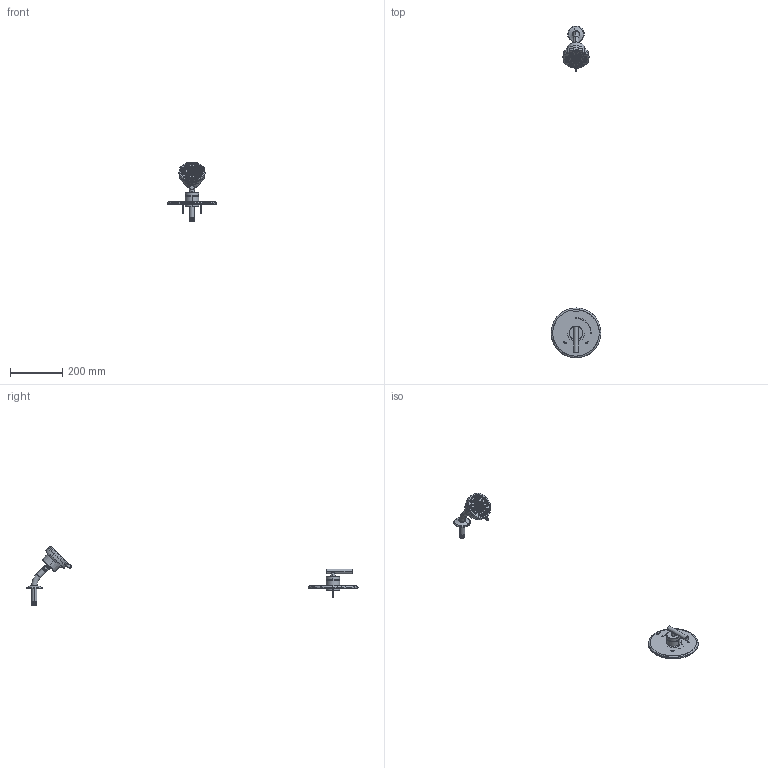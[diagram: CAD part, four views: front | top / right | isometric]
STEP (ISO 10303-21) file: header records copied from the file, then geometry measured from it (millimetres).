
FILE_DESCRIPTION (( 'STEP AP214' ), '1' );
FILE_NAME ('3591BTRM.STEP', '2025-01-15T07:02:46', ( '' ), ( '' ), 'SwSTEP 2.0', 'SolidWorks 2023', '' );
FILE_SCHEMA (( 'AUTOMOTIVE_DESIGN' ));
Length unit declared in the file: inch
Products named in the file (1): 3591BTRM
Bounding box: 190.5 x 1270.83 x 229.19 mm (x, y, z)
Surface area: 190279.4 mm2 (no closed solid volume)
Topology: 0 solids, 197 shells, 1016 faces, 3884 edges, 3007 vertices
Faces by surface type: plane 304, cylinder 267, cone 220, bspline 160, torus 47, sphere 18
Entity records: 113253 total; most frequent: CARTESIAN_POINT 83636, ORIENTED_EDGE 5694, DIRECTION 5236, EDGE_CURVE 3879, VERTEX_POINT 3004, AXIS2_PLACEMENT_3D 2021, B_SPLINE_CURVE_WITH_KNOTS 1504, EDGE_LOOP 1309
